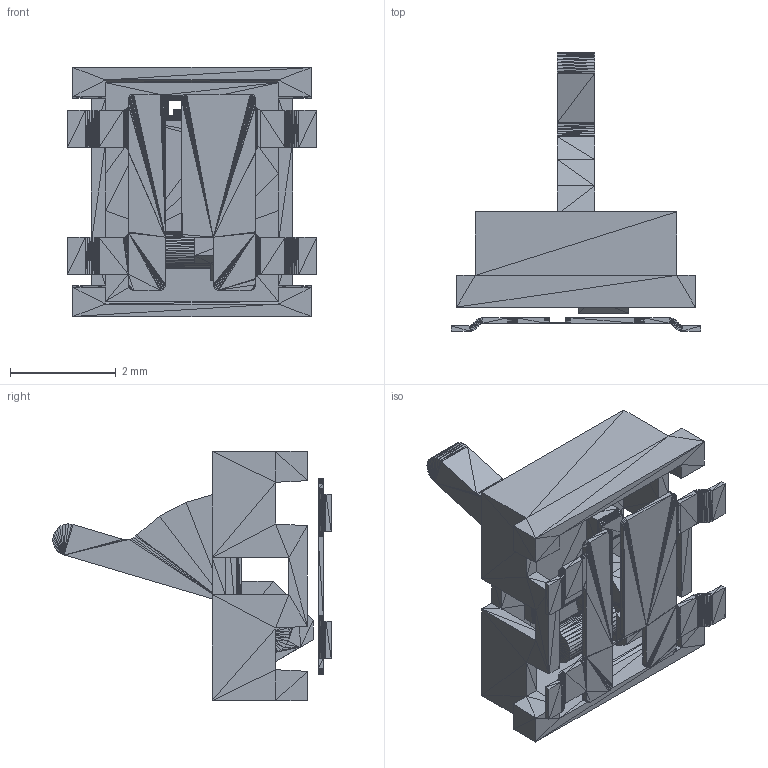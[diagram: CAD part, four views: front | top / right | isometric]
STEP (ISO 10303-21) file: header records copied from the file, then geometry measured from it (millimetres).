
FILE_DESCRIPTION(/* description */ (''),/* implementation_level */ '2;1');
FILE_NAME(/* name */ 'DTS 312 CP-T.stp',/* time_stamp */ '2020-4-27T10:10:33.9475272',/* author */ ('knitter-switch'),/* organization */ (''),/* preprocessor_version */ 'InStep v2',/* originating_system */ 'InStep V2.3',/* authorisation */ '');
FILE_SCHEMA (('AUTOMOTIVE_DESIGN { 1 0 10303 214 1 1 1 1 }'));
Length unit declared in the file: centimetre
Products named in the file (1): None
Bounding box: 4.7 x 5.26 x 4.7 mm (x, y, z)
Volume: 15.8 mm3; surface area: 182.8 mm2
Topology: 2 solids, 16 shells, 1987 faces, 3059 edges, 1056 vertices
Faces by surface type: plane 1987
Entity records: 61704 total; most frequent: ORIENTED_EDGE 12084, DIRECTION 8448, LINE 6042, EDGE_CURVE 6042, VECTOR 4249, AXIS2_PLACEMENT_3D 4198, EDGE_LOOP 4197, FACE_OUTER_BOUND 4197
